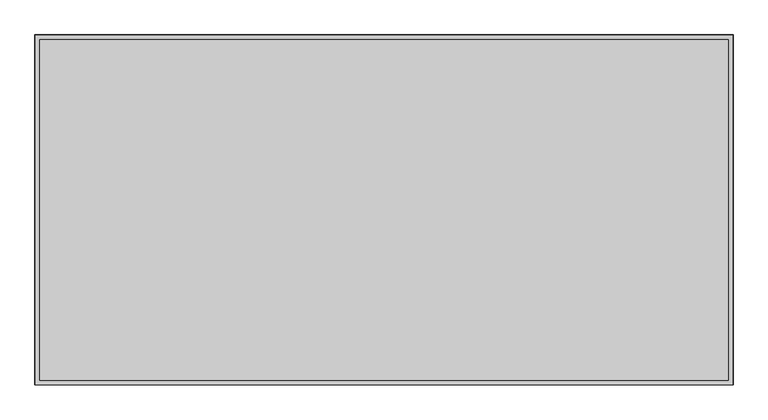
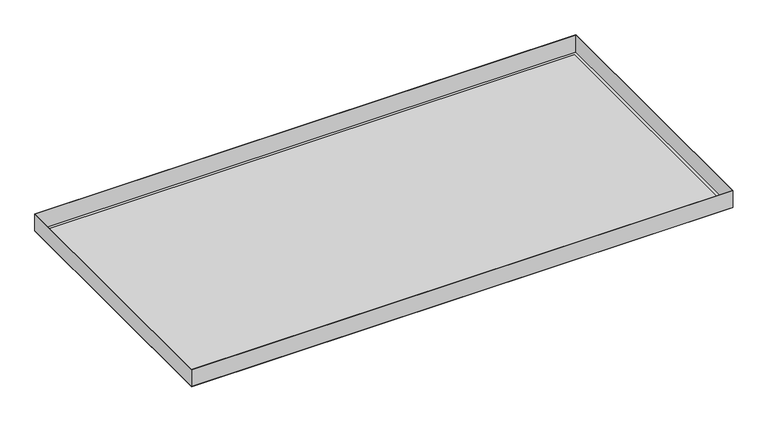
"""IFC4 building model written with IfcOpenShell, lengths in millimetres: proxy geometry, durlum_S4.7K_panel : durlum_S4.7_panel."""

import ifcopenshell
import ifcopenshell.guid

model = None  # the IFC model being written
_history = None  # IfcOwnerHistory: only IFC2X3 demands one
_inside = {}  # id of a spatial element -> (the spatial element, [elements in it])
_under = {}  # id of a project, library or spatial element -> (it, [spatial elements below it])
_declared = {}  # id of a project -> (the project, [libraries it declares])
_typed = {}  # id of a type object -> (the type object, [elements of that type])
_made_of = {}  # id of a material, layer set ... -> (it, [elements and type objects made of it])


def new_model(schema):
    """Start an empty IFC model of exactly this schema.

    Asked for "IFC4X3", IfcOpenShell would pick the latest addendum, in which some entities
    have other attributes; the version numbers below select the first issue.
    IFC2X3 requires an IfcOwnerHistory on every rooted entity: one is made here for all.
    """
    global model, _history
    if schema == "IFC4X3":
        model = ifcopenshell.file(schema_version=(4, 3, 0, 0))
    else:
        model = ifcopenshell.file(schema=schema)
    _inside.clear()
    _under.clear()
    _declared.clear()
    _typed.clear()
    _made_of.clear()
    _history = None
    if model.schema == "IFC2X3":
        org = make("IfcOrganization", Name="unknown")
        user = make(
            "IfcPersonAndOrganization",
            ThePerson=make("IfcPerson", FamilyName="unknown"),
            TheOrganization=org,
        )
        app = make(
            "IfcApplication",
            ApplicationDeveloper=org,
            Version="unknown",
            ApplicationFullName="unknown",
            ApplicationIdentifier="unknown",
        )
        _history = make(
            "IfcOwnerHistory",
            OwningUser=user,
            OwningApplication=app,
            ChangeAction="ADDED",
            CreationDate=0,
        )
    return model


def make(cls, **values):
    """One entity of the class cls with the attributes given. An attribute that is None is left unset."""
    return model.create_entity(
        cls, **{name: value for name, value in values.items() if value is not None}
    )


def rooted(cls, **values):
    """An entity with a GlobalId (a new one), such as an element, a storey or a relation."""
    return make(cls, GlobalId=ifcopenshell.guid.new(), OwnerHistory=_history, **values)


def si_unit(unit_type, name, prefix=None):
    """IfcSIUnit, for example si_unit("LENGTHUNIT", "METRE", prefix="MILLI")."""
    return make("IfcSIUnit", UnitType=unit_type, Prefix=prefix, Name=name)


def assignment(units):
    """IfcUnitAssignment: the units of a project."""
    return None if units is None else make("IfcUnitAssignment", Units=units)


def point(xyz):
    """IfcCartesianPoint."""
    return None if xyz is None else make("IfcCartesianPoint", Coordinates=xyz)


def direction(xyz):
    """IfcDirection."""
    return None if xyz is None else make("IfcDirection", DirectionRatios=xyz)


def frame(location, z_axis=None, x_axis=None):
    """IfcAxis2Placement3D, a coordinate frame: its origin and axes. An axis left out is left unset."""
    return make(
        "IfcAxis2Placement3D",
        Location=point(location),
        Axis=direction(z_axis),
        RefDirection=direction(x_axis),
    )


def origin():
    """The frame at (0, 0, 0) with its axes left unset."""
    return frame((0.0, 0.0, 0.0))


def origin_with_axes():
    """The frame at (0, 0, 0) with the z axis (0, 0, 1) and the x axis (1, 0, 0) written out."""
    return frame((0.0, 0.0, 0.0), z_axis=(0.0, 0.0, 1.0), x_axis=(1.0, 0.0, 0.0))


def place(relative_to, where):
    """IfcLocalPlacement: puts the frame where relative to a parent placement (None: the world)."""
    return make(
        "IfcLocalPlacement", PlacementRelTo=relative_to, RelativePlacement=where
    )


def context(
    kind, dimensions, precision=None, world=None, true_north=None, identifier=None
):
    """IfcGeometricRepresentationContext, for example the 3D "Model" context."""
    return make(
        "IfcGeometricRepresentationContext",
        ContextIdentifier=identifier,
        ContextType=kind,
        CoordinateSpaceDimension=dimensions,
        Precision=precision,
        WorldCoordinateSystem=world,
        TrueNorth=true_north,
    )


def project(units=None, contexts=None):
    """IfcProject with its units and contexts."""
    return rooted(
        "IfcProject",
        Name="project",
        RepresentationContexts=contexts,
        UnitsInContext=assignment(units),
    )


def spatial(cls, under=None, at=None, **own):
    """A site, building, storey or space (cls), placed at a placement, below another one or the project."""
    s = rooted(cls, ObjectPlacement=at, **own)
    if under is not None:
        _under.setdefault(under.id(), (under, []))[1].append(s)
    return s


def polyline(points):
    """IfcPolyline through the points."""
    return make("IfcPolyline", Points=[point(p) for p in points])


def outline(outer, holes=None, kind="AREA"):
    """IfcArbitraryClosedProfileDef: a profile drawn as a closed curve; with holes, ...WithVoids."""
    if holes is None:
        return make("IfcArbitraryClosedProfileDef", ProfileType=kind, OuterCurve=outer)
    return make(
        "IfcArbitraryProfileDefWithVoids",
        ProfileType=kind,
        OuterCurve=outer,
        InnerCurves=holes,
    )


def extrude(swept, where, along, depth):
    """IfcExtrudedAreaSolid: the profile swept, set in the frame where, extruded along a direction by depth."""
    return make(
        "IfcExtrudedAreaSolid",
        SweptArea=swept,
        Position=where,
        ExtrudedDirection=direction(along),
        Depth=depth,
    )


def shape(context_of_items, identifier, shape_type, items):
    """IfcShapeRepresentation: the items that make up one representation, for example the "Body"."""
    return make(
        "IfcShapeRepresentation",
        ContextOfItems=context_of_items,
        RepresentationIdentifier=identifier,
        RepresentationType=shape_type,
        Items=items,
    )


def source(mapping_origin, context_of_items, identifier, shape_type, items):
    """IfcRepresentationMap: a shape defined once, which mapped items show again and again."""
    return make(
        "IfcRepresentationMap",
        MappingOrigin=mapping_origin,
        MappedRepresentation=shape(context_of_items, identifier, shape_type, items),
    )


def transform(
    local_origin,
    x_axis=None,
    y_axis=None,
    z_axis=None,
    scale=None,
    scale2=None,
    scale3=None,
    uniform=True,
):
    """IfcCartesianTransformationOperator3D, or its non-uniform kind. x_axis, y_axis, z_axis: its Axis1, 2, 3."""
    if uniform:
        return make(
            "IfcCartesianTransformationOperator3D",
            Axis1=direction(x_axis),
            Axis2=direction(y_axis),
            LocalOrigin=point(local_origin),
            Scale=scale,
            Axis3=direction(z_axis),
        )
    return make(
        "IfcCartesianTransformationOperator3DnonUniform",
        Axis1=direction(x_axis),
        Axis2=direction(y_axis),
        LocalOrigin=point(local_origin),
        Scale=scale,
        Axis3=direction(z_axis),
        Scale2=scale2,
        Scale3=scale3,
    )


def mapped(mapping_source, mapping_target):
    """IfcMappedItem: shows the shape of a source again, moved by a transform."""
    return make(
        "IfcMappedItem", MappingSource=mapping_source, MappingTarget=mapping_target
    )


def made_of(thing, what):
    """Note that an element or type object is made of a material, layer set ...; save() writes the relation."""
    if what is not None:
        _made_of.setdefault(what.id(), (what, []))[1].append(thing)
    return thing


def element(
    cls,
    number,
    at=None,
    inside=None,
    cuts=None,
    type_object=None,
    material=None,
    context=None,
    identifier="Body",
    shape_type=None,
    held_by="IfcProductDefinitionShape",
    body=None,
    shapes=None,
    **own,
):
    """One element of the class cls, such as IfcWall. Its Tag is "e" and its number.

    at: its placement. inside: the storey or other place that contains it. cuts: it is an
    opening in that element (IfcRelVoidsElement). A single representation is given by context,
    identifier, shape_type and body (its items); several are given by shapes. held_by: the class
    of the entity that holds the representations. save() writes the other relations.
    """
    e = rooted(cls, Tag="e%d" % number, ObjectPlacement=at, **own)
    if body is not None:
        shapes = [shape(context, identifier, shape_type, body)]
    if shapes is not None:
        e.Representation = make(held_by, Representations=shapes)
    if inside is not None:
        _inside.setdefault(inside.id(), (inside, []))[1].append(e)
    if cuts is not None:
        rooted(
            "IfcRelVoidsElement", RelatingBuildingElement=cuts, RelatedOpeningElement=e
        )
    if type_object is not None:
        _typed.setdefault(type_object.id(), (type_object, []))[1].append(e)
    return made_of(e, material)


def aggregate(whole, parts):
    """IfcRelAggregates: a whole, such as a stair, and the parts it consists of."""
    return rooted("IfcRelAggregates", RelatingObject=whole, RelatedObjects=parts)


def save(model, path):
    """Write the relations noted so far, then the file.

    IfcRelAggregates (storeys below a building ...), IfcRelContainedInSpatialStructure (elements
    in a storey), IfcRelDefinesByType, IfcRelAssociatesMaterial and IfcRelDeclares: one each for
    every whole, place, type object, material and project.
    """
    for whole, parts in _under.values():
        aggregate(whole, parts)
    for where, things in _inside.values():
        rooted(
            "IfcRelContainedInSpatialStructure",
            RelatedElements=things,
            RelatingStructure=where,
        )
    for kind, things in _typed.values():
        rooted("IfcRelDefinesByType", RelatedObjects=things, RelatingType=kind)
    for what, things in _made_of.values():
        rooted("IfcRelAssociatesMaterial", RelatedObjects=things, RelatingMaterial=what)
    for by, libraries in _declared.values():
        rooted("IfcRelDeclares", RelatingContext=by, RelatedDefinitions=libraries)
    model.write(path)


def generic_models_b4e013a1(model_context):
    return source(origin(), model_context, "Body", "SweptSolid", [
        extrude(outline(polyline([(597.0, 299.75), (597.0, -299.75), (-597.0, -299.75), (-597.0, 299.75), (597.0, 299.75)]), holes=[polyline([(596.4, 299.15), (-596.4, 299.15), (-596.4, -299.15), (596.4, -299.15), (596.4, 299.15)])]), frame((0.0, 0.0, 0.6), z_axis=(0.0, 0.0, 1.0), x_axis=(1.0, 0.0, 0.0)), (0.0, 0.0, 1.0), 39.4),
        extrude(outline(polyline([(589.0, 291.75), (589.0, -291.75), (-589.0, -291.75), (-589.0, 291.75), (589.0, 291.75)])), frame((0.0, 0.0, 0.6), z_axis=(0.0, 0.0, 1.0), x_axis=(1.0, 0.0, 0.0)), (0.0, 0.0, 1.0), 0.6),
        extrude(outline(polyline([(597.0, 299.75), (597.0, -299.75), (-597.0, -299.75), (-597.0, 299.75), (597.0, 299.75)]), holes=[polyline([(589.0, 291.75), (-589.0, 291.75), (-589.0, -291.75), (589.0, -291.75), (589.0, 291.75)])]), origin_with_axes(), (0.0, 0.0, 1.0), 0.6),
        extrude(outline(polyline([(589.0, 291.75), (589.0, -291.75), (-589.0, -291.75), (-589.0, 291.75), (589.0, 291.75)])), origin_with_axes(), (0.0, 0.0, 1.0), 0.6),
    ])


if __name__ == "__main__":
    model = new_model("IFC4")
    model_context = context("Model", 3, world=origin())
    ifc_project = project(units=[si_unit("LENGTHUNIT", "METRE", prefix="MILLI")], contexts=[model_context])
    site = spatial("IfcSite", under=ifc_project)
    building = spatial("IfcBuilding", under=site)
    placement = place(None, origin())
    generic_models_shape = generic_models_b4e013a1(model_context)
    element("IfcBuildingElementProxy", 1, Name="durlum_S4.7K_panel : durlum_S4.7_panel", ObjectType="durlum_S4.7K_panel : durlum_S4.7_panel", at=placement, inside=building, context=model_context, shape_type="MappedRepresentation", body=[
        mapped(generic_models_shape, transform((0.0, 0.0, 0.0), x_axis=(1.0, 0.0, 0.0), y_axis=(0.0, 1.0, 0.0), z_axis=(0.0, 0.0, 1.0))),
    ])
    save(model, "model.ifc")
